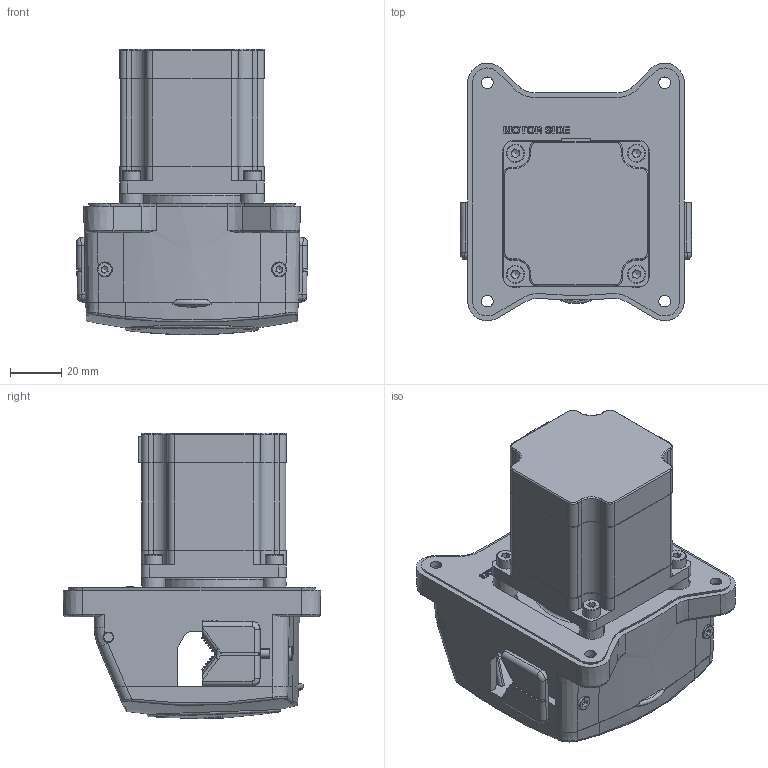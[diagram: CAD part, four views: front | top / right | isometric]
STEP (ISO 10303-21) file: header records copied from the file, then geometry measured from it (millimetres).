
FILE_DESCRIPTION (( 'STEP AP214' ), '1' );
FILE_NAME ('30101(2).000_30KS_short.STEP', '2022-02-14T16:45:32', ( '' ), ( '' ), 'SwSTEP 2.0', 'SolidWorks 2021', '' );
FILE_SCHEMA (( 'AUTOMOTIVE_DESIGN' ));
Length unit declared in the file: millimetre
Products named in the file (1): 30101(2).000_30KS_short
Bounding box: 89.97 x 100.29 x 111.09 mm (x, y, z)
Volume: 273871.7 mm3; surface area: 93079.4 mm2
Topology: 14 solids, 14 shells, 1908 faces, 4787 edges, 2963 vertices
Faces by surface type: plane 766, cylinder 503, bspline 291, cone 129, torus 119, sphere 100
Full cylindrical faces by diameter (mm): 2.5 x2, 3 x2, 3.2 x2, 3.5 x4, 4 x8, 4.05 x2, 4.517 x4, 5 x5, 5.5 x2, 7 x4, 9.95 x1, 18 x1, 22 x1, 38 x1, 52 x1
Entity records: 73344 total; most frequent: CARTESIAN_POINT 26756, ORIENTED_EDGE 9288, DIRECTION 8175, EDGE_CURVE 4644, AXIS2_PLACEMENT_3D 2941, VERTEX_POINT 2924, VECTOR 2293, LINE 2293
